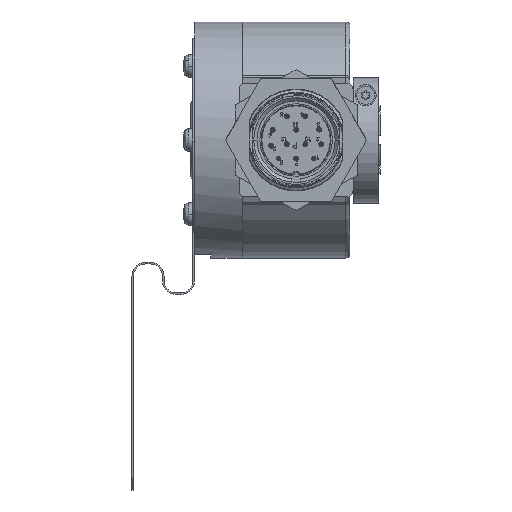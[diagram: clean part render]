
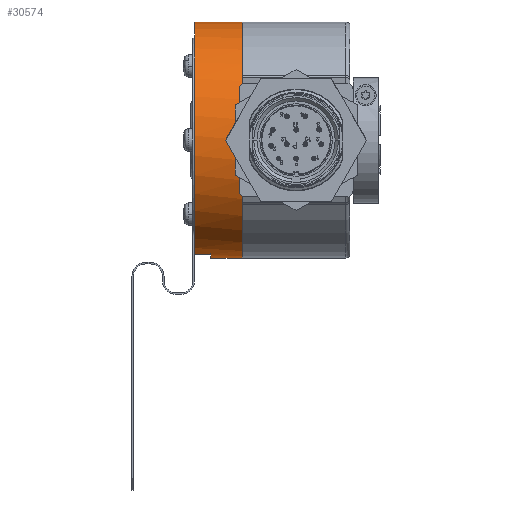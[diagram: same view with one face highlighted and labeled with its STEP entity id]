
A CAD part, front view. The second image highlights one B-rep face of the part: STEP entity #30574.
In plain terms, the highlighted cylindrical face has radius 29 mm (diameter 58 mm), a partial arc.
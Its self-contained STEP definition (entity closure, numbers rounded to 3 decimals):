
#1904 = CIRCLE ( 'NONE', #40146, 29. ) ;
#6601 = VECTOR ( 'NONE', #28743, 1000. ) ;
#9185 = CARTESIAN_POINT ( 'NONE',  ( 0.378, 25.423, -29. ) ) ;
#10050 = DIRECTION ( 'NONE',  ( 1., 0., 0. ) ) ;
#10677 = CARTESIAN_POINT ( 'NONE',  ( 8.068, 25.423, -29. ) ) ;
#12317 = AXIS2_PLACEMENT_3D ( 'NONE', #63684, #63339, #26028 ) ;
#13402 = CARTESIAN_POINT ( 'NONE',  ( -3.622, 25.423, 29. ) ) ;
#13962 = VERTEX_POINT ( 'NONE', #62133 ) ;
#14369 = LINE ( 'NONE', #37219, #32760 ) ;
#17096 = ORIENTED_EDGE ( 'NONE', *, *, #26447, .T. ) ;
#17275 = AXIS2_PLACEMENT_3D ( 'NONE', #29533, #50984, #67225 ) ;
#17819 = CARTESIAN_POINT ( 'NONE',  ( 8.068, 18.423, -28.142 ) ) ;
#20040 = CYLINDRICAL_SURFACE ( 'NONE', #12317, 29. ) ;
#20684 = ORIENTED_EDGE ( 'NONE', *, *, #62235, .T. ) ;
#21625 = EDGE_CURVE ( 'NONE', #33086, #49006, #1904, .T. ) ;
#23149 = EDGE_CURVE ( 'NONE', #65408, #13962, #24166, .T. ) ;
#24166 = LINE ( 'NONE', #17819, #6601 ) ;
#25599 = VERTEX_POINT ( 'NONE', #9185 ) ;
#25672 = AXIS2_PLACEMENT_3D ( 'NONE', #69542, #10050, #52953 ) ;
#26028 = DIRECTION ( 'NONE',  ( 0., 0., -1. ) ) ;
#26447 = EDGE_CURVE ( 'NONE', #25599, #49006, #30019, .T. ) ;
#28743 = DIRECTION ( 'NONE',  ( -1., 0., 0. ) ) ;
#29250 = DIRECTION ( 'NONE',  ( 0., 0., -1. ) ) ;
#29533 = CARTESIAN_POINT ( 'NONE',  ( -3.622, 25.423, 0. ) ) ;
#30019 = LINE ( 'NONE', #10677, #67533 ) ;
#30259 = FACE_OUTER_BOUND ( 'NONE', #69169, .T. ) ;
#30574 = ADVANCED_FACE ( 'NONE', ( #30259 ), #20040, .T. ) ;
#32760 = VECTOR ( 'NONE', #68590, 1000. ) ;
#33086 = VERTEX_POINT ( 'NONE', #51044 ) ;
#35175 = CARTESIAN_POINT ( 'NONE',  ( 0.378, 18.423, -28.142 ) ) ;
#36266 = ORIENTED_EDGE ( 'NONE', *, *, #68080, .T. ) ;
#37219 = CARTESIAN_POINT ( 'NONE',  ( 8.068, 25.423, 29. ) ) ;
#39145 = CIRCLE ( 'NONE', #25672, 29. ) ;
#40146 = AXIS2_PLACEMENT_3D ( 'NONE', #51045, #67290, #29250 ) ;
#49006 = VERTEX_POINT ( 'NONE', #66696 ) ;
#49330 = ORIENTED_EDGE ( 'NONE', *, *, #51690, .F. ) ;
#50984 = DIRECTION ( 'NONE',  ( 1., 0., 0. ) ) ;
#51044 = CARTESIAN_POINT ( 'NONE',  ( 8.068, 25.423, 29. ) ) ;
#51045 = CARTESIAN_POINT ( 'NONE',  ( 8.068, 25.423, 0. ) ) ;
#51140 = VERTEX_POINT ( 'NONE', #13402 ) ;
#51690 = EDGE_CURVE ( 'NONE', #51140, #33086, #14369, .T. ) ;
#52155 = CIRCLE ( 'NONE', #17275, 29. ) ;
#52953 = DIRECTION ( 'NONE',  ( 0., 0., 1. ) ) ;
#58163 = DIRECTION ( 'NONE',  ( 1., 0., 0. ) ) ;
#61518 = ORIENTED_EDGE ( 'NONE', *, *, #21625, .F. ) ;
#62133 = CARTESIAN_POINT ( 'NONE',  ( -3.622, 18.423, -28.142 ) ) ;
#62235 = EDGE_CURVE ( 'NONE', #51140, #13962, #52155, .T. ) ;
#63339 = DIRECTION ( 'NONE',  ( 1., 0., 0. ) ) ;
#63684 = CARTESIAN_POINT ( 'NONE',  ( 8.068, 25.423, 0. ) ) ;
#65119 = ORIENTED_EDGE ( 'NONE', *, *, #23149, .F. ) ;
#65408 = VERTEX_POINT ( 'NONE', #35175 ) ;
#66696 = CARTESIAN_POINT ( 'NONE',  ( 8.068, 25.423, -29. ) ) ;
#67225 = DIRECTION ( 'NONE',  ( 0., 0., -1. ) ) ;
#67290 = DIRECTION ( 'NONE',  ( 1., 0., 0. ) ) ;
#67533 = VECTOR ( 'NONE', #58163, 1000. ) ;
#68080 = EDGE_CURVE ( 'NONE', #65408, #25599, #39145, .T. ) ;
#68590 = DIRECTION ( 'NONE',  ( 1., 0., 0. ) ) ;
#69169 = EDGE_LOOP ( 'NONE', ( #49330, #20684, #65119, #36266, #17096, #61518 ) ) ;
#69542 = CARTESIAN_POINT ( 'NONE',  ( 0.378, 25.423, 0. ) ) ;
